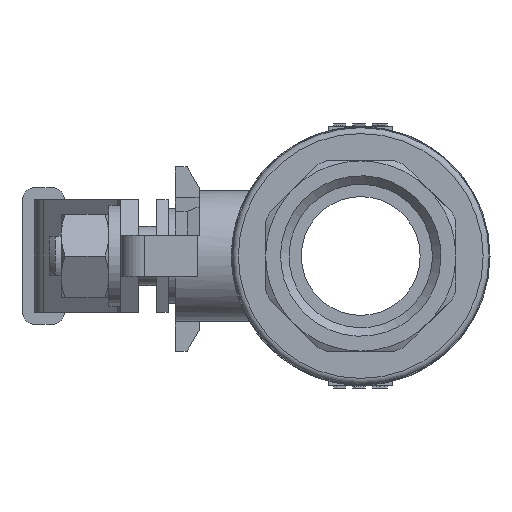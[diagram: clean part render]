
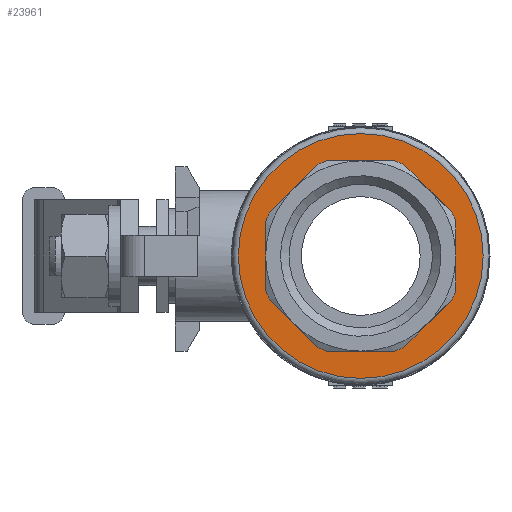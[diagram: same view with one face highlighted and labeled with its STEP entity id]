
A CAD part, left-side view. The second image highlights one B-rep face of the part: STEP entity #23961.
In plain terms, the highlighted planar face has unit normal (-1, 0, 0).
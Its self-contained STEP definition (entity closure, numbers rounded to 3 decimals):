
#504=FACE_BOUND('',#3952,.T.);
#1417=PLANE('',#25252);
#2679=FACE_OUTER_BOUND('',#3951,.T.);
#3951=EDGE_LOOP('',(#21326));
#3952=EDGE_LOOP('',(#21327,#21328,#21329,#21330,#21331,#21332,#21333,#21334,
#21335,#21336,#21337,#21338,#21339,#21340,#21341,#21342));
#6663=LINE('',#39240,#9351);
#6664=LINE('',#39244,#9352);
#6665=LINE('',#39248,#9353);
#6666=LINE('',#39252,#9354);
#6667=LINE('',#39256,#9355);
#6668=LINE('',#39260,#9356);
#6669=LINE('',#39264,#9357);
#6670=LINE('',#39267,#9358);
#9351=VECTOR('',#30429,10.);
#9352=VECTOR('',#30432,10.);
#9353=VECTOR('',#30435,10.);
#9354=VECTOR('',#30438,10.);
#9355=VECTOR('',#30441,10.);
#9356=VECTOR('',#30444,10.);
#9357=VECTOR('',#30447,10.);
#9358=VECTOR('',#30450,10.);
#9588=CIRCLE('',#25250,20.6);
#9590=CIRCLE('',#25253,17.);
#9591=CIRCLE('',#25254,17.);
#9592=CIRCLE('',#25255,17.);
#9593=CIRCLE('',#25256,17.);
#9594=CIRCLE('',#25257,17.);
#9595=CIRCLE('',#25258,17.);
#9596=CIRCLE('',#25259,17.);
#9597=CIRCLE('',#25260,17.);
#11731=VERTEX_POINT('',#39231);
#11732=VERTEX_POINT('',#39236);
#11733=VERTEX_POINT('',#39237);
#11734=VERTEX_POINT('',#39239);
#11735=VERTEX_POINT('',#39241);
#11736=VERTEX_POINT('',#39243);
#11737=VERTEX_POINT('',#39245);
#11738=VERTEX_POINT('',#39247);
#11739=VERTEX_POINT('',#39249);
#11740=VERTEX_POINT('',#39251);
#11741=VERTEX_POINT('',#39253);
#11742=VERTEX_POINT('',#39255);
#11743=VERTEX_POINT('',#39257);
#11744=VERTEX_POINT('',#39259);
#11745=VERTEX_POINT('',#39261);
#11746=VERTEX_POINT('',#39263);
#11747=VERTEX_POINT('',#39265);
#14941=EDGE_CURVE('',#11731,#11731,#9588,.T.);
#14943=EDGE_CURVE('',#11732,#11733,#9590,.T.);
#14944=EDGE_CURVE('',#11734,#11733,#6663,.T.);
#14945=EDGE_CURVE('',#11734,#11735,#9591,.T.);
#14946=EDGE_CURVE('',#11736,#11735,#6664,.T.);
#14947=EDGE_CURVE('',#11736,#11737,#9592,.T.);
#14948=EDGE_CURVE('',#11738,#11737,#6665,.T.);
#14949=EDGE_CURVE('',#11738,#11739,#9593,.T.);
#14950=EDGE_CURVE('',#11740,#11739,#6666,.T.);
#14951=EDGE_CURVE('',#11740,#11741,#9594,.T.);
#14952=EDGE_CURVE('',#11742,#11741,#6667,.T.);
#14953=EDGE_CURVE('',#11742,#11743,#9595,.T.);
#14954=EDGE_CURVE('',#11744,#11743,#6668,.T.);
#14955=EDGE_CURVE('',#11744,#11745,#9596,.T.);
#14956=EDGE_CURVE('',#11746,#11745,#6669,.T.);
#14957=EDGE_CURVE('',#11746,#11747,#9597,.T.);
#14958=EDGE_CURVE('',#11732,#11747,#6670,.T.);
#21326=ORIENTED_EDGE('',*,*,#14941,.F.);
#21327=ORIENTED_EDGE('',*,*,#14943,.T.);
#21328=ORIENTED_EDGE('',*,*,#14944,.F.);
#21329=ORIENTED_EDGE('',*,*,#14945,.T.);
#21330=ORIENTED_EDGE('',*,*,#14946,.F.);
#21331=ORIENTED_EDGE('',*,*,#14947,.T.);
#21332=ORIENTED_EDGE('',*,*,#14948,.F.);
#21333=ORIENTED_EDGE('',*,*,#14949,.T.);
#21334=ORIENTED_EDGE('',*,*,#14950,.F.);
#21335=ORIENTED_EDGE('',*,*,#14951,.T.);
#21336=ORIENTED_EDGE('',*,*,#14952,.F.);
#21337=ORIENTED_EDGE('',*,*,#14953,.T.);
#21338=ORIENTED_EDGE('',*,*,#14954,.F.);
#21339=ORIENTED_EDGE('',*,*,#14955,.T.);
#21340=ORIENTED_EDGE('',*,*,#14956,.F.);
#21341=ORIENTED_EDGE('',*,*,#14957,.T.);
#21342=ORIENTED_EDGE('',*,*,#14958,.F.);
#23961=ADVANCED_FACE('',(#2679,#504),#1417,.T.);
#25250=AXIS2_PLACEMENT_3D('',#39233,#30421,#30422);
#25252=AXIS2_PLACEMENT_3D('',#39235,#30425,#30426);
#25253=AXIS2_PLACEMENT_3D('',#39238,#30427,#30428);
#25254=AXIS2_PLACEMENT_3D('',#39242,#30430,#30431);
#25255=AXIS2_PLACEMENT_3D('',#39246,#30433,#30434);
#25256=AXIS2_PLACEMENT_3D('',#39250,#30436,#30437);
#25257=AXIS2_PLACEMENT_3D('',#39254,#30439,#30440);
#25258=AXIS2_PLACEMENT_3D('',#39258,#30442,#30443);
#25259=AXIS2_PLACEMENT_3D('',#39262,#30445,#30446);
#25260=AXIS2_PLACEMENT_3D('',#39266,#30448,#30449);
#30421=DIRECTION('center_axis',(1.,0.,0.));
#30422=DIRECTION('ref_axis',(0.,-1.,0.));
#30425=DIRECTION('center_axis',(-1.,0.,0.));
#30426=DIRECTION('ref_axis',(0.,0.,1.));
#30427=DIRECTION('center_axis',(1.,0.,0.));
#30428=DIRECTION('ref_axis',(0.,1.,0.));
#30429=DIRECTION('',(0.,0.707,-0.707));
#30430=DIRECTION('center_axis',(1.,0.,0.));
#30431=DIRECTION('ref_axis',(0.,1.,0.));
#30432=DIRECTION('',(0.,1.,0.));
#30433=DIRECTION('center_axis',(1.,0.,0.));
#30434=DIRECTION('ref_axis',(0.,1.,0.));
#30435=DIRECTION('',(0.,0.707,0.707));
#30436=DIRECTION('center_axis',(1.,0.,0.));
#30437=DIRECTION('ref_axis',(0.,1.,0.));
#30438=DIRECTION('',(0.,0.,1.));
#30439=DIRECTION('center_axis',(1.,0.,0.));
#30440=DIRECTION('ref_axis',(0.,1.,0.));
#30441=DIRECTION('',(0.,-0.707,0.707));
#30442=DIRECTION('center_axis',(1.,0.,0.));
#30443=DIRECTION('ref_axis',(0.,1.,0.));
#30444=DIRECTION('',(0.,-1.,0.));
#30445=DIRECTION('center_axis',(1.,0.,0.));
#30446=DIRECTION('ref_axis',(0.,1.,0.));
#30447=DIRECTION('',(0.,-0.707,-0.707));
#30448=DIRECTION('center_axis',(1.,0.,0.));
#30449=DIRECTION('ref_axis',(0.,1.,0.));
#30450=DIRECTION('',(0.,0.,-1.));
#39231=CARTESIAN_POINT('',(-84.46,-39.806,20.6));
#39233=CARTESIAN_POINT('Origin',(-84.46,-39.806,0.));
#39235=CARTESIAN_POINT('Origin',(-84.46,-20.506,0.));
#39236=CARTESIAN_POINT('',(-84.46,-23.806,5.745));
#39237=CARTESIAN_POINT('',(-84.46,-24.431,7.252));
#39238=CARTESIAN_POINT('Origin',(-84.46,-39.806,0.));
#39239=CARTESIAN_POINT('',(-84.46,-32.555,15.376));
#39240=CARTESIAN_POINT('',(-84.46,-26.462,9.283));
#39241=CARTESIAN_POINT('',(-84.46,-34.062,16.));
#39242=CARTESIAN_POINT('Origin',(-84.46,-39.806,0.));
#39243=CARTESIAN_POINT('',(-84.46,-45.551,16.));
#39244=CARTESIAN_POINT('',(-84.46,-36.934,16.));
#39245=CARTESIAN_POINT('',(-84.46,-47.058,15.376));
#39246=CARTESIAN_POINT('Origin',(-84.46,-39.806,0.));
#39247=CARTESIAN_POINT('',(-84.46,-55.182,7.252));
#39248=CARTESIAN_POINT('',(-84.46,-49.089,13.345));
#39249=CARTESIAN_POINT('',(-84.46,-55.806,5.745));
#39250=CARTESIAN_POINT('Origin',(-84.46,-39.806,0.));
#39251=CARTESIAN_POINT('',(-84.46,-55.806,-5.745));
#39252=CARTESIAN_POINT('',(-84.46,-55.806,2.872));
#39253=CARTESIAN_POINT('',(-84.46,-55.182,-7.252));
#39254=CARTESIAN_POINT('Origin',(-84.46,-39.806,0.));
#39255=CARTESIAN_POINT('',(-84.46,-47.058,-15.376));
#39256=CARTESIAN_POINT('',(-84.46,-53.151,-9.283));
#39257=CARTESIAN_POINT('',(-84.46,-45.551,-16.));
#39258=CARTESIAN_POINT('Origin',(-84.46,-39.806,0.));
#39259=CARTESIAN_POINT('',(-84.46,-34.062,-16.));
#39260=CARTESIAN_POINT('',(-84.46,-42.679,-16.));
#39261=CARTESIAN_POINT('',(-84.46,-32.555,-15.376));
#39262=CARTESIAN_POINT('Origin',(-84.46,-39.806,0.));
#39263=CARTESIAN_POINT('',(-84.46,-24.431,-7.252));
#39264=CARTESIAN_POINT('',(-84.46,-30.524,-13.345));
#39265=CARTESIAN_POINT('',(-84.46,-23.806,-5.745));
#39266=CARTESIAN_POINT('Origin',(-84.46,-39.806,0.));
#39267=CARTESIAN_POINT('',(-84.46,-23.806,-2.872));
